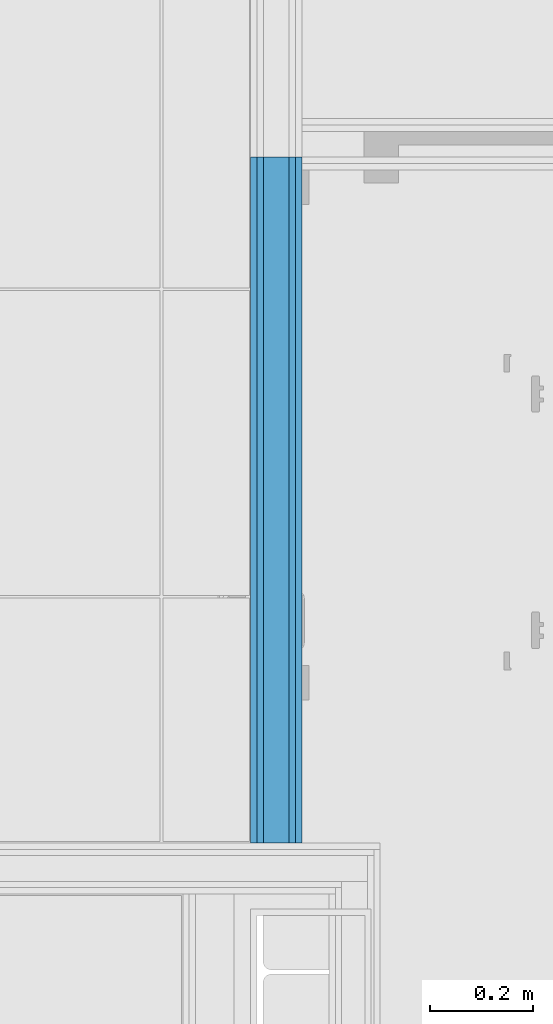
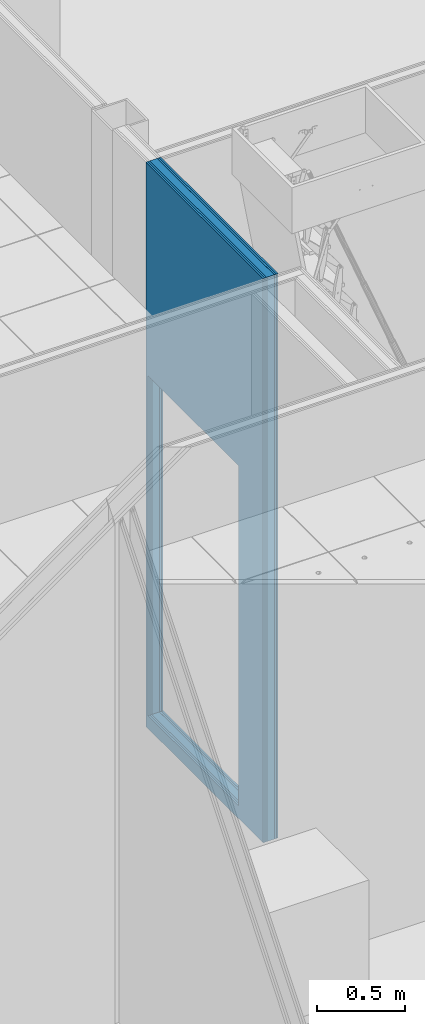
# One storey, part 25 of 321: 5 building element parts, 1 opening, 1 element without a shape of its own.
"""IFC2X3 building model written with IfcOpenShell, lengths in millimetres."""

import ifcopenshell
import ifcopenshell.guid

model = None  # the IFC model being written
_history = None  # IfcOwnerHistory: only IFC2X3 demands one
_inside = {}  # id of a spatial element -> (the spatial element, [elements in it])
_under = {}  # id of a project, library or spatial element -> (it, [spatial elements below it])
_declared = {}  # id of a project -> (the project, [libraries it declares])
_typed = {}  # id of a type object -> (the type object, [elements of that type])
_made_of = {}  # id of a material, layer set ... -> (it, [elements and type objects made of it])


def new_model(schema):
    """Start an empty IFC model of exactly this schema.

    Asked for "IFC4X3", IfcOpenShell would pick the latest addendum, in which some entities
    have other attributes; the version numbers below select the first issue.
    IFC2X3 requires an IfcOwnerHistory on every rooted entity: one is made here for all.
    """
    global model, _history
    if schema == "IFC4X3":
        model = ifcopenshell.file(schema_version=(4, 3, 0, 0))
    else:
        model = ifcopenshell.file(schema=schema)
    _inside.clear()
    _under.clear()
    _declared.clear()
    _typed.clear()
    _made_of.clear()
    _history = None
    if model.schema == "IFC2X3":
        org = make("IfcOrganization", Name="unknown")
        user = make(
            "IfcPersonAndOrganization",
            ThePerson=make("IfcPerson", FamilyName="unknown"),
            TheOrganization=org,
        )
        app = make(
            "IfcApplication",
            ApplicationDeveloper=org,
            Version="unknown",
            ApplicationFullName="unknown",
            ApplicationIdentifier="unknown",
        )
        _history = make(
            "IfcOwnerHistory",
            OwningUser=user,
            OwningApplication=app,
            ChangeAction="ADDED",
            CreationDate=0,
        )
    return model


def make(cls, **values):
    """One entity of the class cls with the attributes given. An attribute that is None is left unset."""
    return model.create_entity(
        cls, **{name: value for name, value in values.items() if value is not None}
    )


def entity(cls, *values):
    """Any entity or typed value of the class cls, its attributes in the order of the schema. None: left unset."""
    e = model.create_entity(cls)
    for i, value in enumerate(values):
        if value is not None:
            e[i] = value
    return e


def rooted(cls, **values):
    """An entity with a GlobalId (a new one), such as an element, a storey or a relation."""
    return make(cls, GlobalId=ifcopenshell.guid.new(), OwnerHistory=_history, **values)


def si_unit(unit_type, name, prefix=None):
    """IfcSIUnit, for example si_unit("LENGTHUNIT", "METRE", prefix="MILLI")."""
    return make("IfcSIUnit", UnitType=unit_type, Prefix=prefix, Name=name)


def converted_unit(unit_type, name, factor, base, dimensions=None, offset=None):
    """IfcConversionBasedUnit, such as the inch: factor (a typed value) times the base unit."""
    return make(
        "IfcConversionBasedUnit"
        if offset is None
        else "IfcConversionBasedUnitWithOffset",
        ConversionOffset=offset,
        Dimensions=None
        if dimensions is None
        else entity("IfcDimensionalExponents", *dimensions),
        UnitType=unit_type,
        Name=name,
        ConversionFactor=make(
            "IfcMeasureWithUnit", ValueComponent=factor, UnitComponent=base
        ),
    )


def derived_unit(unit_type, elements):
    """IfcDerivedUnit: a product of units, each with its exponent."""
    return make(
        "IfcDerivedUnit",
        Elements=[
            make("IfcDerivedUnitElement", Unit=unit, Exponent=power)
            for unit, power in elements
        ],
        UnitType=unit_type,
    )


def money_unit(currency):
    """IfcMonetaryUnit."""
    return make("IfcMonetaryUnit", Currency=currency)


def assignment(units):
    """IfcUnitAssignment: the units of a project."""
    return None if units is None else make("IfcUnitAssignment", Units=units)


def point(xyz):
    """IfcCartesianPoint."""
    return None if xyz is None else make("IfcCartesianPoint", Coordinates=xyz)


def direction(xyz):
    """IfcDirection."""
    return None if xyz is None else make("IfcDirection", DirectionRatios=xyz)


def frame(location, z_axis=None, x_axis=None):
    """IfcAxis2Placement3D, a coordinate frame: its origin and axes. An axis left out is left unset."""
    return make(
        "IfcAxis2Placement3D",
        Location=point(location),
        Axis=direction(z_axis),
        RefDirection=direction(x_axis),
    )


def origin_with_axes():
    """The frame at (0, 0, 0) with the z axis (0, 0, 1) and the x axis (1, 0, 0) written out."""
    return frame((0.0, 0.0, 0.0), z_axis=(0.0, 0.0, 1.0), x_axis=(1.0, 0.0, 0.0))


def place(relative_to, where):
    """IfcLocalPlacement: puts the frame where relative to a parent placement (None: the world)."""
    return make(
        "IfcLocalPlacement", PlacementRelTo=relative_to, RelativePlacement=where
    )


def context(
    kind, dimensions, precision=None, world=None, true_north=None, identifier=None
):
    """IfcGeometricRepresentationContext, for example the 3D "Model" context."""
    return make(
        "IfcGeometricRepresentationContext",
        ContextIdentifier=identifier,
        ContextType=kind,
        CoordinateSpaceDimension=dimensions,
        Precision=precision,
        WorldCoordinateSystem=world,
        TrueNorth=true_north,
    )


def subcontext(parent, identifier, kind, view, scale=None):
    """IfcGeometricRepresentationSubContext, for example "Body" below "Model"."""
    return make(
        "IfcGeometricRepresentationSubContext",
        ContextIdentifier=identifier,
        ContextType=kind,
        ParentContext=parent,
        TargetScale=scale,
        TargetView=view,
    )


def project(units=None, contexts=None):
    """IfcProject with its units and contexts."""
    return rooted(
        "IfcProject",
        Name="project",
        RepresentationContexts=contexts,
        UnitsInContext=assignment(units),
    )


def spatial(cls, under=None, at=None, **own):
    """A site, building, storey or space (cls), placed at a placement, below another one or the project."""
    s = rooted(cls, ObjectPlacement=at, **own)
    if under is not None:
        _under.setdefault(under.id(), (under, []))[1].append(s)
    return s


def faces_of(points, faces, orient=None, outer=None):
    """IfcFace entities. A face is a list of loops; a loop is a list of indices into points, from 0.

    orient and outer hold one flag for each loop. By default every Orientation is true, the
    first loop of a face is its IfcFaceOuterBound and the others are IfcFaceBound.
    """
    made = []
    for i, loops in enumerate(faces):
        bounds = []
        for j, loop in enumerate(loops):
            is_outer = j == 0 if outer is None else outer[i][j]
            bounds.append(
                make(
                    "IfcFaceOuterBound" if is_outer else "IfcFaceBound",
                    Bound=make("IfcPolyLoop", Polygon=[points[k] for k in loop]),
                    Orientation=True if orient is None else orient[i][j],
                )
            )
        made.append(make("IfcFace", Bounds=bounds))
    return made


def faceted_brep(points, faces, orient=None, outer=None, voids=None):
    """IfcFacetedBrep: a solid bounded by flat faces; with voids (closed shells), ...WithVoids."""
    shared = [point(p) for p in points]
    hull = make("IfcClosedShell", CfsFaces=faces_of(shared, faces, orient, outer))
    if voids is None:
        return make("IfcFacetedBrep", Outer=hull)
    return make(
        "IfcFacetedBrepWithVoids",
        Outer=hull,
        Voids=[
            make(cls, CfsFaces=faces_of(shared, fs, o, b)) for cls, fs, o, b in voids
        ],
    )


def shape(context_of_items, identifier, shape_type, items):
    """IfcShapeRepresentation: the items that make up one representation, for example the "Body"."""
    return make(
        "IfcShapeRepresentation",
        ContextOfItems=context_of_items,
        RepresentationIdentifier=identifier,
        RepresentationType=shape_type,
        Items=items,
    )


def material(Name=None, Category=None):
    """IfcMaterial."""
    return make("IfcMaterial", Name=Name, Category=Category)


def made_of(thing, what):
    """Note that an element or type object is made of a material, layer set ...; save() writes the relation."""
    if what is not None:
        _made_of.setdefault(what.id(), (what, []))[1].append(thing)
    return thing


def type_object(cls, material=None, **own):
    """A type object (cls), such as IfcWallType, which elements share."""
    return made_of(rooted(cls, **own), material)


def element(
    cls,
    number,
    at=None,
    inside=None,
    cuts=None,
    type_object=None,
    material=None,
    context=None,
    identifier="Body",
    shape_type=None,
    held_by="IfcProductDefinitionShape",
    body=None,
    shapes=None,
    **own,
):
    """One element of the class cls, such as IfcWall. Its Tag is "e" and its number.

    at: its placement. inside: the storey or other place that contains it. cuts: it is an
    opening in that element (IfcRelVoidsElement). A single representation is given by context,
    identifier, shape_type and body (its items); several are given by shapes. held_by: the class
    of the entity that holds the representations. save() writes the other relations.
    """
    e = rooted(cls, Tag="e%d" % number, ObjectPlacement=at, **own)
    if body is not None:
        shapes = [shape(context, identifier, shape_type, body)]
    if shapes is not None:
        e.Representation = make(held_by, Representations=shapes)
    if inside is not None:
        _inside.setdefault(inside.id(), (inside, []))[1].append(e)
    if cuts is not None:
        rooted(
            "IfcRelVoidsElement", RelatingBuildingElement=cuts, RelatedOpeningElement=e
        )
    if type_object is not None:
        _typed.setdefault(type_object.id(), (type_object, []))[1].append(e)
    return made_of(e, material)


def aggregate(whole, parts):
    """IfcRelAggregates: a whole, such as a stair, and the parts it consists of."""
    return rooted("IfcRelAggregates", RelatingObject=whole, RelatedObjects=parts)


def save(model, path):
    """Write the relations noted so far, then the file.

    IfcRelAggregates (storeys below a building ...), IfcRelContainedInSpatialStructure (elements
    in a storey), IfcRelDefinesByType, IfcRelAssociatesMaterial and IfcRelDeclares: one each for
    every whole, place, type object, material and project.
    """
    for whole, parts in _under.values():
        aggregate(whole, parts)
    for where, things in _inside.values():
        rooted(
            "IfcRelContainedInSpatialStructure",
            RelatedElements=things,
            RelatingStructure=where,
        )
    for kind, things in _typed.values():
        rooted("IfcRelDefinesByType", RelatedObjects=things, RelatingType=kind)
    for what, things in _made_of.values():
        rooted("IfcRelAssociatesMaterial", RelatedObjects=things, RelatingMaterial=what)
    for by, libraries in _declared.values():
        rooted("IfcRelDeclares", RelatingContext=by, RelatedDefinitions=libraries)
    model.write(path)


model = new_model("IFC2X3")

# Units and contexts
model_context = context("Model", 3, precision=0.01, world=origin_with_axes(), true_north=direction((0.0, 1.0)))
plan_context = context("Plan", 3, precision=0.01, world=origin_with_axes(), true_north=direction((0.0, 1.0)))
body_context = subcontext(model_context, "Body", "Model", "MODEL_VIEW")
ifc_project = project(units=[si_unit("LENGTHUNIT", "METRE", prefix="MILLI"), si_unit("AREAUNIT", "SQUARE_METRE"), si_unit("VOLUMEUNIT", "CUBIC_METRE"), converted_unit("PLANEANGLEUNIT", "DEGREE", entity("IfcPlaneAngleMeasure", 0.0174532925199), si_unit("PLANEANGLEUNIT", "RADIAN"), dimensions=[0, 0, 0, 0, 0, 0, 0]), money_unit("EUR"), converted_unit("TIMEUNIT", "Year", entity("IfcTimeMeasure", 31556926.0), si_unit("TIMEUNIT", "SECOND"), dimensions=[0, 0, 1, 0, 0, 0, 0]), si_unit("MASSUNIT", "GRAM", prefix="KILO"), si_unit("THERMODYNAMICTEMPERATUREUNIT", "DEGREE_CELSIUS"), si_unit("LUMINOUSINTENSITYUNIT", "LUMEN"), si_unit("ENERGYUNIT", "JOULE", prefix="MEGA"), derived_unit("THERMALCONDUCTANCEUNIT", [(si_unit("POWERUNIT", "WATT"), 1), (si_unit("LENGTHUNIT", "METRE"), -1), (si_unit("THERMODYNAMICTEMPERATUREUNIT", "KELVIN"), -1)]), derived_unit("SPECIFICHEATCAPACITYUNIT", [(si_unit("ENERGYUNIT", "JOULE"), 1), (si_unit("MASSUNIT", "GRAM", prefix="KILO"), -1), (si_unit("THERMODYNAMICTEMPERATUREUNIT", "KELVIN"), -1)]), derived_unit("MASSDENSITYUNIT", [(si_unit("MASSUNIT", "GRAM", prefix="KILO"), 1), (si_unit("VOLUMEUNIT", "CUBIC_METRE"), -1)])], contexts=[model_context, plan_context])

# Site, building, storey
site_placement = place(None, origin_with_axes())
site = spatial("IfcSite", under=ifc_project, at=site_placement, Name="Fortuinstraat Woensdrecht", CompositionType="ELEMENT")
building_placement = place(site_placement, origin_with_axes())
building = spatial("IfcBuilding", under=site, at=building_placement, Name="IKC Fortuna", CompositionType="ELEMENT")
storey_placement = place(building_placement, frame((0.0, 0.0, 4000.0), z_axis=(0.0, 0.0, 1.0), x_axis=(1.0, 0.0, 0.0)))
storey = spatial("IfcBuildingStorey", under=building, at=storey_placement, Name="01 eerste verdieping", CompositionType="ELEMENT", Elevation=4000.0)

# Wall, opening, building element parts
wall_type = type_object("IfcWallType", Name="MS100 2.50.2A 100", PredefinedType="NOTDEFINED")
wall_placement = place(storey_placement, frame((28901.9349765, 17985.434218, -90.0), z_axis=(0.0, 0.0, 1.0), x_axis=(0.0, 1.0, 0.0)))
wall = element("IfcWall", 1, at=wall_placement, inside=storey, type_object=wall_type, Name="22_Wand_Binnenwand")
opening_placement = place(wall_placement, frame((895.500008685, 0.0, 90.0), z_axis=(0.0, 0.0, 1.0), x_axis=(1.0, 0.0, 0.0)))
element("IfcOpeningElement", 2, at=opening_placement, cuts=wall, Name="32_Deur_h.01a", context=body_context, shape_type="Brep", body=[
    faceted_brep([(517.0, -100.0, 2367.0), (517.0, -100.0, 0.0), (517.0, 200.0, 0.0), (517.0, 200.0, 2367.0), (-517.0, -100.0, 2367.0), (-517.0, -100.0, 0.0), (-517.0, 200.0, 0.0), (-517.0, 200.0, 2367.0)], [[[0, 1, 2, 3]], [[0, 4, 5, 1]], [[1, 5, 6, 2]], [[3, 2, 6, 7]], [[4, 0, 3, 7]], [[5, 4, 7, 6]]]),
])
ifc_material_1 = material(Name="Gipsplaat")
building_element_part_1_placement = place(wall_placement, origin_with_axes())
building_element_part_1 = element("IfcBuildingElementPart", 3, at=building_element_part_1_placement, material=ifc_material_1, Name="Gipsplaat", context=body_context, shape_type="Brep", body=[
    faceted_brep([(1437.50001915, 50.0, 0.0), (100.0, 50.0, 0.0), (100.0, 50.0, 3930.0), (1437.50001915, 50.0, 3930.0), (378.500008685, 50.0, 90.0), (1412.50000869, 50.0, 90.0), (1412.50000869, 50.0, 2457.0), (378.500008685, 50.0, 2457.0), (1437.50001915, 37.5, 0.0), (100.0, 37.5, 0.0), (100.0, 37.5, 3930.0), (1437.50001915, 37.5, 3930.0), (378.500008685, 37.5, 90.0), (1412.50000869, 37.5, 90.0), (1412.50000869, 37.5, 2457.0), (378.500008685, 37.5, 2457.0)], [[[0, 1, 2, 3], [4, 5, 6, 7]], [[8, 9, 1, 0]], [[2, 1, 9, 10]], [[3, 2, 10, 11]], [[8, 0, 3, 11]], [[12, 13, 5, 4]], [[13, 14, 6, 5]], [[14, 15, 7, 6]], [[15, 12, 4, 7]], [[11, 10, 9, 8], [12, 15, 14, 13]]]),
])
building_element_part_2_placement = place(wall_placement, origin_with_axes())
building_element_part_2 = element("IfcBuildingElementPart", 4, at=building_element_part_2_placement, material=ifc_material_1, Name="Gipsplaat", context=body_context, shape_type="Brep", body=[
    faceted_brep([(1437.50001915, 37.5, 0.0), (100.0, 37.5, 0.0), (100.0, 37.5, 3930.0), (1437.50001915, 37.5, 3930.0), (378.500008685, 37.5, 90.0), (1412.50000869, 37.5, 90.0), (1412.50000869, 37.5, 2457.0), (378.500008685, 37.5, 2457.0), (1437.50001915, 25.0, 0.0), (100.0, 25.0, 0.0), (100.0, 25.0, 3930.0), (1437.50001915, 25.0, 3930.0), (378.500008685, 25.0, 90.0), (1412.50000869, 25.0, 90.0), (1412.50000869, 25.0, 2457.0), (378.500008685, 25.0, 2457.0)], [[[0, 1, 2, 3], [4, 5, 6, 7]], [[8, 9, 1, 0]], [[2, 1, 9, 10]], [[3, 2, 10, 11]], [[8, 0, 3, 11]], [[12, 13, 5, 4]], [[13, 14, 6, 5]], [[14, 15, 7, 6]], [[15, 12, 4, 7]], [[11, 10, 9, 8], [12, 15, 14, 13]]]),
])
ifc_material_2 = material(Name="Isolatie - Steenwol LSW")
building_element_part_3_placement = place(wall_placement, origin_with_axes())
building_element_part_3 = element("IfcBuildingElementPart", 5, at=building_element_part_3_placement, material=ifc_material_2, Name="Isolatie - Steenwol LSW", context=body_context, shape_type="Brep", body=[
    faceted_brep([(1437.50001915, 25.0, 0.0), (100.0, 25.0, 0.0), (100.0, 25.0, 3930.0), (1437.50001915, 25.0, 3930.0), (378.500008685, 25.0, 90.0), (1412.50000869, 25.0, 90.0), (1412.50000869, 25.0, 2457.0), (378.500008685, 25.0, 2457.0), (1437.50001915, -25.0, 0.0), (100.0, -25.0, 0.0), (100.0, -25.0, 3930.0), (1437.50001915, -25.0, 3930.0), (378.500008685, -25.0, 90.0), (1412.50000869, -25.0, 90.0), (1412.50000869, -25.0, 2457.0), (378.500008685, -25.0, 2457.0)], [[[0, 1, 2, 3], [4, 5, 6, 7]], [[8, 9, 1, 0]], [[2, 1, 9, 10]], [[3, 2, 10, 11]], [[8, 0, 3, 11]], [[12, 13, 5, 4]], [[13, 14, 6, 5]], [[14, 15, 7, 6]], [[15, 12, 4, 7]], [[11, 10, 9, 8], [12, 15, 14, 13]]]),
])
building_element_part_4_placement = place(wall_placement, origin_with_axes())
building_element_part_4 = element("IfcBuildingElementPart", 6, at=building_element_part_4_placement, material=ifc_material_1, Name="Gipsplaat", context=body_context, shape_type="Brep", body=[
    faceted_brep([(1437.50001915, -25.0, 0.0), (100.0, -25.0, 0.0), (100.0, -25.0, 3930.0), (1437.50001915, -25.0, 3930.0), (378.500008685, -25.0, 90.0), (1412.50000869, -25.0, 90.0), (1412.50000869, -25.0, 2457.0), (378.500008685, -25.0, 2457.0), (1437.50001915, -37.5, 0.0), (100.0, -37.5, 0.0), (100.0, -37.5, 3930.0), (1437.50001915, -37.5, 3930.0), (378.500008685, -37.5, 90.0), (1412.50000869, -37.5, 90.0), (1412.50000869, -37.5, 2457.0), (378.500008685, -37.5, 2457.0)], [[[0, 1, 2, 3], [4, 5, 6, 7]], [[8, 9, 1, 0]], [[2, 1, 9, 10]], [[3, 2, 10, 11]], [[8, 0, 3, 11]], [[12, 13, 5, 4]], [[13, 14, 6, 5]], [[14, 15, 7, 6]], [[15, 12, 4, 7]], [[11, 10, 9, 8], [12, 15, 14, 13]]]),
])
building_element_part_5_placement = place(wall_placement, origin_with_axes())
building_element_part_5 = element("IfcBuildingElementPart", 7, at=building_element_part_5_placement, material=ifc_material_1, Name="Gipsplaat", context=body_context, shape_type="Brep", body=[
    faceted_brep([(1437.50001915, -37.5, 0.0), (100.0, -37.5, 0.0), (100.0, -37.5, 3930.0), (1437.50001915, -37.5, 3930.0), (378.500008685, -37.5, 90.0), (1412.50000869, -37.5, 90.0), (1412.50000869, -37.5, 2457.0), (378.500008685, -37.5, 2457.0), (1437.50001915, -50.0, 0.0), (100.0, -50.0, 0.0), (100.0, -50.0, 3930.0), (1437.50001915, -50.0, 3930.0), (378.500008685, -50.0, 90.0), (1412.50000869, -50.0, 90.0), (1412.50000869, -50.0, 2457.0), (378.500008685, -50.0, 2457.0)], [[[0, 1, 2, 3], [4, 5, 6, 7]], [[8, 9, 1, 0]], [[2, 1, 9, 10]], [[3, 2, 10, 11]], [[8, 0, 3, 11]], [[12, 13, 5, 4]], [[13, 14, 6, 5]], [[14, 15, 7, 6]], [[15, 12, 4, 7]], [[11, 10, 9, 8], [12, 15, 14, 13]]]),
])
aggregate(wall, [building_element_part_1, building_element_part_2, building_element_part_3, building_element_part_4, building_element_part_5])

save(model, "model.ifc")
